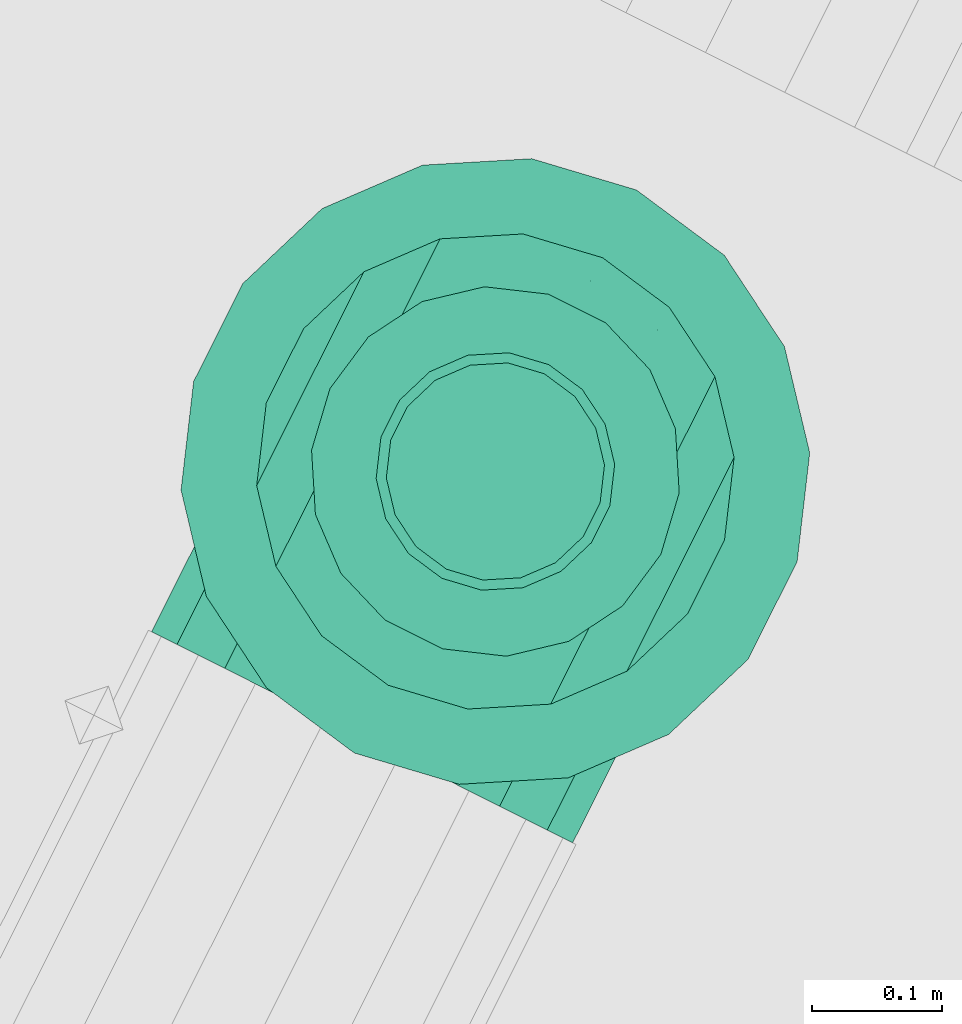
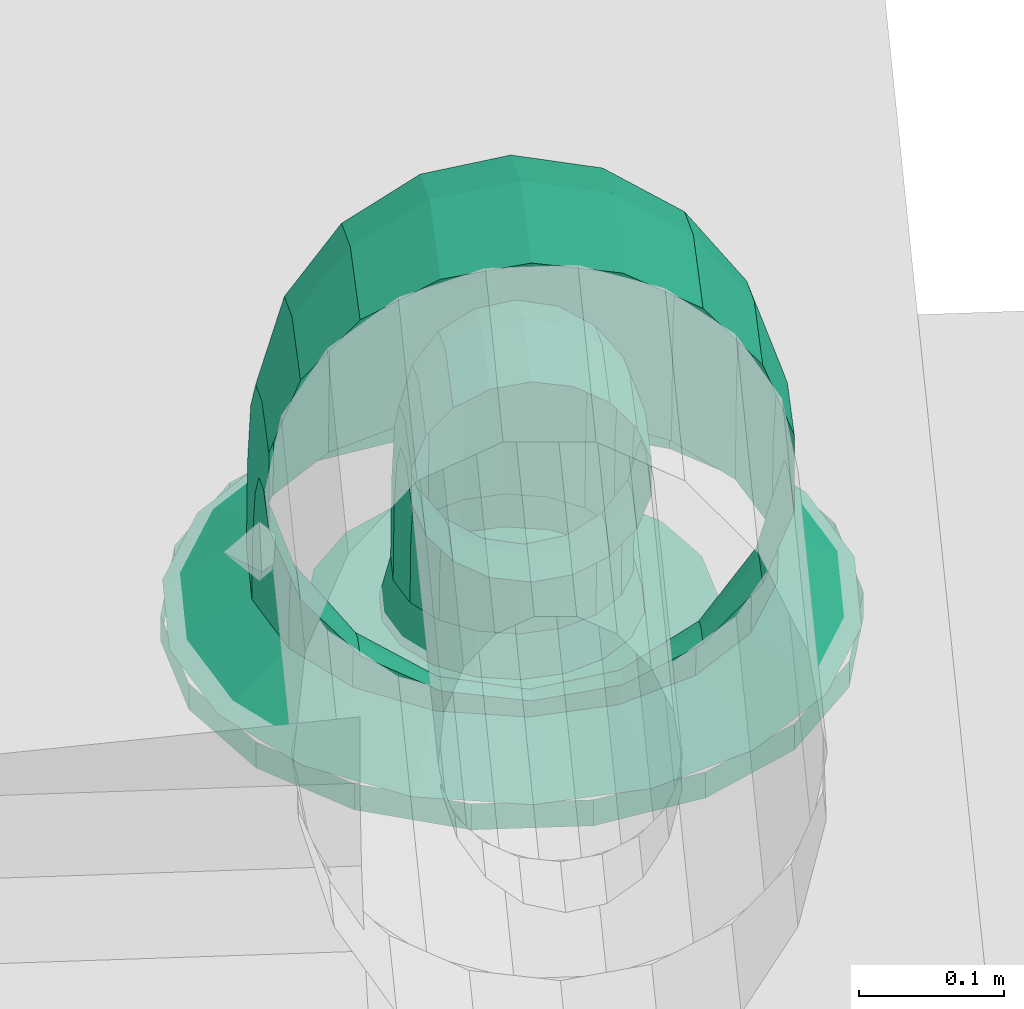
# One storey, part 128 of 206: 1 flow fitting, 1 flow segment.
"""IFC2X3 building model written with IfcOpenShell, lengths in metres."""

from ifc_helpers import new_model, si_unit, derived_unit, direction, frame, origin, place, context, subcontext, project, spatial, face_set, surface_model, source, transform, mapped, material, type_object, type_shapes, element, save


model = new_model("IFC2X3")

# Units and contexts
model_context = context("Model", 3, precision=5.2338327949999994e-05, world=origin(), true_north=direction((0.0, 1.0)))
body_context = subcontext(model_context, "Body", "Model", "MODEL_VIEW")
ifc_project = project(units=[si_unit("LENGTHUNIT", "METRE"), si_unit("AREAUNIT", "SQUARE_METRE"), si_unit("VOLUMEUNIT", "CUBIC_METRE"), si_unit("MASSUNIT", "GRAM", prefix="KILO"), si_unit("PLANEANGLEUNIT", "RADIAN"), derived_unit("THERMALTRANSMITTANCEUNIT", [(si_unit("MASSUNIT", "GRAM", prefix="KILO"), 1), (si_unit("THERMODYNAMICTEMPERATUREUNIT", "KELVIN"), -1), (si_unit("TIMEUNIT", "SECOND"), -3)])], contexts=[model_context])

# Site, building, storey
site_placement = place(None, frame((0.0, 0.0, 0.0), z_axis=(0.0, 0.0, 1.0), x_axis=(0.8939966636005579, -0.4480736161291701, 0.0)))
site = spatial("IfcSite", under=ifc_project, at=site_placement, Name="Default", CompositionType="ELEMENT")
building_placement = place(site_placement, origin())
building = spatial("IfcBuilding", under=site, at=building_placement, CompositionType="ELEMENT")
storey_placement = place(building_placement, origin())
storey = spatial("IfcBuildingStorey", under=building, at=storey_placement, Name="Erdgeschoss", CompositionType="ELEMENT", Elevation=0.0)

# Flow fitting
ifc_material = material(Name="IfcSurfaceStyle #9317")
distribution_element_type_1 = type_object("IfcDistributionElementType", material=ifc_material)
shared_shape_1 = source(origin(), body_context, "Body", "SurfaceModel", [
    surface_model("IfcFaceBasedSurfaceModel", [(24.032321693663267, 7.367307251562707, 2.07), (24.040915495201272, 7.3185693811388, 2.07), (24.040915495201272, 7.3185693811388, 2.0919999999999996), (24.032321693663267, 7.367307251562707, 2.0919999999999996), (24.065660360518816, 7.275710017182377, 2.07), (24.065660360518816, 7.275710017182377, 2.0919999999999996), (24.103571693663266, 7.243898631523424, 2.07), (24.103571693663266, 7.243898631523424, 2.0919999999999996), (24.15007682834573, 7.226972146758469, 2.07), (24.15007682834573, 7.226972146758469, 2.0919999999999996), (24.199566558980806, 7.226972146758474, 2.07), (24.199566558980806, 7.226972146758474, 2.0919999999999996), (24.246071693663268, 7.243898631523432, 2.07), (24.246071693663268, 7.243898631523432, 2.0919999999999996), (24.283983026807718, 7.275710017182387, 2.07), (24.283983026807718, 7.275710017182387, 2.0919999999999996), (24.30872789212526, 7.3185693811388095, 2.07), (24.30872789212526, 7.3185693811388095, 2.0919999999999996), (24.317321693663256, 7.36730725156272, 2.07), (24.317321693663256, 7.36730725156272, 2.0919999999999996), (24.30872789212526, 7.4160451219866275, 2.07), (24.30872789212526, 7.4160451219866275, 2.0919999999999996), (24.283983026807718, 7.458904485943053, 2.07), (24.283983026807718, 7.458904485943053, 2.0919999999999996), (24.246071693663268, 7.490715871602, 2.07), (24.246071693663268, 7.490715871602, 2.0919999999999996), (24.199566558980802, 7.507642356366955, 2.07), (24.199566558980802, 7.507642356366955, 2.0919999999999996), (24.15007682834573, 7.507642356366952, 2.07), (24.15007682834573, 7.507642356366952, 2.0919999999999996), (24.103571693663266, 7.490715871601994, 2.07), (24.103571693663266, 7.490715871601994, 2.0919999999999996), (24.065660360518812, 7.458904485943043, 2.07), (24.065660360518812, 7.458904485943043, 2.0919999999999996), (24.04091549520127, 7.416045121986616, 2.07), (24.04091549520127, 7.416045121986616, 2.0919999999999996), (24.17482169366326, 7.367307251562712, 2.091999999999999), (24.17482169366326, 7.275307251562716, 2.0919999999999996), (24.206287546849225, 7.280855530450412, 2.0919999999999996), (24.20360268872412, 7.28823211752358, 2.125), (24.17482169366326, 7.283157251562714, 2.1249999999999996), (24.23395815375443, 7.29683116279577, 2.0919999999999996), (24.228912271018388, 7.302844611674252, 2.125), (24.25449603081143, 7.321307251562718, 2.091999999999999), (24.247697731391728, 7.325232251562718, 2.1249999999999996), (24.265424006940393, 7.351331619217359, 2.0920000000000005), (24.257693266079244, 7.352694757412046, 2.125000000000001), (24.265424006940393, 7.383282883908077, 2.091999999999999), (24.257693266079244, 7.381919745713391, 2.1249999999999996), (24.25449603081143, 7.41330725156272, 2.0919999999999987), (24.247697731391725, 7.409382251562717, 2.124999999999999), (24.23395815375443, 7.437783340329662, 2.0920000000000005), (24.228912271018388, 7.431769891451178, 2.125000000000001), (24.206287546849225, 7.453758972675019, 2.0919999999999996), (24.20360268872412, 7.446382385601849, 2.125), (24.17482169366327, 7.459307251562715, 2.0919999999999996), (24.17482169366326, 7.451457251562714, 2.125), (24.143355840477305, 7.453758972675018, 2.0919999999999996), (24.14604069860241, 7.446382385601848, 2.125), (24.1156852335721, 7.437783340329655, 2.0919999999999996), (24.120731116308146, 7.4317698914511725, 2.125), (24.095147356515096, 7.41330725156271, 2.0919999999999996), (24.101945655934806, 7.409382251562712, 2.125), (24.084219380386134, 7.383282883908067, 2.091999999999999), (24.091950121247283, 7.3819197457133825, 2.1249999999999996), (24.084219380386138, 7.351331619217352, 2.091999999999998), (24.091950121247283, 7.3526947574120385, 2.1249999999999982), (24.095147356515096, 7.3213072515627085, 2.0919999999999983), (24.101945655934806, 7.325232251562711, 2.1249999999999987), (24.1156852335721, 7.2968311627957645, 2.0919999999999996), (24.120731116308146, 7.302844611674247, 2.125), (24.143355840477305, 7.280855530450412, 2.091999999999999), (24.146040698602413, 7.288232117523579, 2.1249999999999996), (23.932321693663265, 7.3673072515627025, 2.07), (23.94694623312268, 7.284367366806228, 2.07), (23.94694623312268, 7.284367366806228, 2.0919999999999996), (23.932321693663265, 7.367307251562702, 2.0919999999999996), (23.989055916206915, 7.211431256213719, 2.07), (23.989055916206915, 7.211431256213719, 2.0919999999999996), (24.05357169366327, 7.157296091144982, 2.07), (24.05357169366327, 7.157296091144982, 2.0919999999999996), (24.132712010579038, 7.128491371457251, 2.07), (24.132712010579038, 7.128491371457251, 2.0919999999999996), (24.216931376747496, 7.128491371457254, 2.07), (24.216931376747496, 7.128491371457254, 2.0919999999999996), (24.29607169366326, 7.157296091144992, 2.07), (24.29607169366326, 7.157296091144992, 2.0919999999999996), (24.36058747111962, 7.211431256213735, 2.07), (24.36058747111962, 7.211431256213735, 2.0919999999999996), (24.40269715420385, 7.284367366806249, 2.07), (24.40269715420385, 7.284367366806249, 2.0919999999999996), (24.417321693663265, 7.3673072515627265, 2.07), (24.417321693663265, 7.3673072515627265, 2.0919999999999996), (24.40269715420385, 7.4502471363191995, 2.07), (24.40269715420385, 7.4502471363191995, 2.0919999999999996), (24.36058747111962, 7.523183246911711, 2.07), (24.36058747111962, 7.523183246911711, 2.0919999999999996), (24.29607169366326, 7.577318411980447, 2.07), (24.29607169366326, 7.577318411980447, 2.0919999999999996), (24.216931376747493, 7.606123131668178, 2.07), (24.216931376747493, 7.606123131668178, 2.0919999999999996), (24.132712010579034, 7.606123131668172, 2.07), (24.132712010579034, 7.606123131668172, 2.0919999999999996), (24.053571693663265, 7.577318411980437, 2.07), (24.053571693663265, 7.577318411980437, 2.0919999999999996), (23.98905591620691, 7.523183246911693, 2.07), (23.98905591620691, 7.523183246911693, 2.0919999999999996), (23.94694623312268, 7.450247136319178, 2.07), (23.94694623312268, 7.450247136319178, 2.0919999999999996), (24.17482169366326, 7.124807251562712, 2.0919999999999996), (24.257761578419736, 7.139431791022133, 2.0919999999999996), (24.23780470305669, 7.1942628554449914, 2.125), (24.17482169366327, 7.1831572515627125, 2.1249999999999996), (24.33069768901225, 7.181541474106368, 2.0919999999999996), (24.29319103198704, 7.226240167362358, 2.125), (24.38483285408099, 7.246057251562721, 2.0920000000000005), (24.334300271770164, 7.275232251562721, 2.125000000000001), (24.413637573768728, 7.325197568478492, 2.092), (24.356174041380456, 7.335329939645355, 2.1250000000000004), (24.41363757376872, 7.409416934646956, 2.0919999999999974), (24.356174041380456, 7.399284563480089, 2.124999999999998), (24.38483285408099, 7.488557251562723, 2.092), (24.334300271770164, 7.459382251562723, 2.1250000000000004), (24.33069768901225, 7.5530730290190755, 2.092), (24.29319103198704, 7.508374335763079, 2.1250000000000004), (24.257761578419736, 7.5951827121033, 2.091999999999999), (24.237804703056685, 7.540351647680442, 2.1249999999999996), (24.17482169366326, 7.609807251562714, 2.0919999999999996), (24.17482169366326, 7.551457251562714, 2.125), (24.091881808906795, 7.595182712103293, 2.092), (24.111838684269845, 7.540351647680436, 2.1250000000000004), (24.01894569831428, 7.55307302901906, 2.0919999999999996), (24.056452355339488, 7.508374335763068, 2.125), (23.96481053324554, 7.488557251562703, 2.091999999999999), (24.015343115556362, 7.459382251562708, 2.1249999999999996), (23.936005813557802, 7.4094169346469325, 2.0919999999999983), (23.993469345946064, 7.39928456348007, 2.1249999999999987), (23.936005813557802, 7.325197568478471, 2.0919999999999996), (23.993469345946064, 7.335329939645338, 2.125), (23.96481053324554, 7.246057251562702, 2.091999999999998), (24.015343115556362, 7.275232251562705, 2.1249999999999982), (24.018945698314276, 7.181541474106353, 2.0919999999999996), (24.05645235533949, 7.226240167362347, 2.125), (24.091881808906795, 7.1394317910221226, 2.0919999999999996), (24.111838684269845, 7.194262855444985, 2.125)], [face_set([[[0, 1, 2, 3]], [[1, 4, 5, 2]], [[4, 6, 7, 5]], [[6, 8, 9, 7]], [[8, 10, 11, 9]], [[10, 12, 13, 11]], [[12, 14, 15, 13]], [[14, 16, 17, 15]], [[16, 18, 19, 17]], [[18, 20, 21, 19]], [[20, 22, 23, 21]], [[22, 24, 25, 23]], [[24, 26, 27, 25]], [[26, 28, 29, 27]], [[28, 30, 31, 29]], [[30, 32, 33, 31]], [[32, 34, 35, 33]], [[34, 0, 3, 35]], [[36, 35, 3]], [[36, 33, 35]], [[36, 31, 33]], [[36, 29, 31]], [[36, 27, 29]], [[36, 25, 27]], [[36, 23, 25]], [[36, 21, 23]], [[36, 19, 21]], [[36, 17, 19]], [[36, 15, 17]], [[36, 13, 15]], [[36, 11, 13]], [[36, 9, 11]], [[36, 7, 9]], [[36, 5, 7]], [[36, 2, 5]], [[36, 3, 2]], [[37, 38, 39, 40]], [[38, 41, 42, 39]], [[41, 43, 44, 42]], [[43, 45, 46, 44]], [[45, 47, 48, 46]], [[47, 49, 50, 48]], [[49, 51, 52, 50]], [[51, 53, 54, 52]], [[53, 55, 56, 54]], [[55, 57, 58, 56]], [[57, 59, 60, 58]], [[59, 61, 62, 60]], [[61, 63, 64, 62]], [[63, 65, 66, 64]], [[65, 67, 68, 66]], [[67, 69, 70, 68]], [[69, 71, 72, 70]], [[71, 37, 40, 72]], [[73, 74, 75, 76]], [[74, 77, 78, 75]], [[77, 79, 80, 78]], [[79, 81, 82, 80]], [[81, 83, 84, 82]], [[83, 85, 86, 84]], [[85, 87, 88, 86]], [[87, 89, 90, 88]], [[89, 91, 92, 90]], [[91, 93, 94, 92]], [[93, 95, 96, 94]], [[95, 97, 98, 96]], [[97, 99, 100, 98]], [[99, 101, 102, 100]], [[101, 103, 104, 102]], [[103, 105, 106, 104]], [[105, 107, 108, 106]], [[107, 73, 76, 108]], [[109, 110, 111, 112]], [[110, 113, 114, 111]], [[113, 115, 116, 114]], [[115, 117, 118, 116]], [[117, 119, 120, 118]], [[119, 121, 122, 120]], [[121, 123, 124, 122]], [[123, 125, 126, 124]], [[125, 127, 128, 126]], [[127, 129, 130, 128]], [[129, 131, 132, 130]], [[131, 133, 134, 132]], [[133, 135, 136, 134]], [[135, 137, 138, 136]], [[137, 139, 140, 138]], [[139, 141, 142, 140]], [[141, 143, 144, 142]], [[143, 109, 112, 144]]])]),
])
type_shapes(distribution_element_type_1, [shared_shape_1])
flow_fitting_placement = place(storey_placement, origin())
element("IfcFlowFitting", 1, at=flow_fitting_placement, inside=storey, type_object=distribution_element_type_1, material=ifc_material, Name="Flansch", ObjectType="Flansch", context=body_context, shape_type="MappedRepresentation", body=[
    mapped(shared_shape_1, transform((0.0, 0.0, 0.0), scale=1.0)),
])

# Flow segment
distribution_element_type_2 = type_object("IfcDistributionElementType", Name="Rohrbogen 317460:Rohrbogen 317460", material=ifc_material)
shared_shape_2 = source(origin(), body_context, "Body", "SurfaceModel", [
    surface_model("IfcFaceBasedSurfaceModel", [(24.17482169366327, 7.451457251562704, 2.125000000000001), (24.146040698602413, 7.446382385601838, 2.1250000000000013), (24.146040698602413, 7.431304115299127, 2.2202004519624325), (24.17482169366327, 7.436130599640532, 2.2217686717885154), (24.146040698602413, 7.387545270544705, 2.306082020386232), (24.17482169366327, 7.391650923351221, 2.309064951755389), (24.146040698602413, 7.3193892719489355, 2.374238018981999), (24.17482169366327, 7.322372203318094, 2.378343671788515), (24.146040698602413, 7.23350770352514, 2.4179968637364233), (24.17482169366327, 7.235075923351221, 2.422823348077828), (24.146040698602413, 7.138307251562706, 2.4330751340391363), (24.17482169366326, 7.138307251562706, 2.4381500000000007), (24.120731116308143, 7.431769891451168, 2.1250000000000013), (24.120731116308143, 7.417406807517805, 2.2156849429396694), (24.120731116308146, 7.375723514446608, 2.2974930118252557), (24.120731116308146, 7.310800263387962, 2.3624162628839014), (24.120731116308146, 7.228992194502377, 2.4040995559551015), (24.120731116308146, 7.138307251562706, 2.4184626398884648), (24.101945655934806, 7.409382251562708, 2.125000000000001), (24.101945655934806, 7.396114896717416, 2.2087667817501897), (24.101945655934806, 7.357611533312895, 2.2843338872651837), (24.101945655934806, 7.297641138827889, 2.3443042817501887), (24.101945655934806, 7.2220740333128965, 2.3828076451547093), (24.101945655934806, 7.138307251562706, 2.3960750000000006), (24.091950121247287, 7.381919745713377, 2.125000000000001), (24.091950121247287, 7.369996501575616, 2.2002804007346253), (24.091950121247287, 7.335393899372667, 2.268191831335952), (24.091950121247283, 7.281499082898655, 2.322086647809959), (24.091950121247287, 7.21358765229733, 2.35668925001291), (24.091950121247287, 7.138307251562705, 2.3686124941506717), (24.091950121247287, 7.352694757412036, 2.125000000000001), (24.091950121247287, 7.342201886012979, 2.1912493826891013), (24.091950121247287, 7.3117503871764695, 2.251013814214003), (24.091950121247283, 7.26432106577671, 2.298443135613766), (24.091950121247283, 7.204556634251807, 2.3288946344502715), (24.091950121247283, 7.138307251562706, 2.3393875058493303), (24.10194565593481, 7.325232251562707, 2.125000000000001), (24.101945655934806, 7.316083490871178, 2.1827630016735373), (24.101945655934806, 7.289532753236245, 2.2348717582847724), (24.101945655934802, 7.248179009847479, 2.2762255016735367), (24.101945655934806, 7.196070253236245, 2.3027762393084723), (24.101945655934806, 7.13830725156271, 2.311925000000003), (24.120731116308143, 7.302844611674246, 2.125000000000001), (24.120731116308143, 7.294791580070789, 2.175844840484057), (24.120731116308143, 7.271420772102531, 2.221712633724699), (24.120731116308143, 7.235019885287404, 2.258113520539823), (24.120731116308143, 7.18915209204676, 2.28148432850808), (24.120731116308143, 7.138307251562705, 2.2895373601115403), (24.146040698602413, 7.288232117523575, 2.1250000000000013), (24.14604069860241, 7.280894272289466, 2.171329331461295), (24.14604069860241, 7.259599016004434, 2.2131236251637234), (24.14604069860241, 7.226430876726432, 2.2462917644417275), (24.14604069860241, 7.184636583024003, 2.2675870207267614), (24.14604069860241, 7.138307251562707, 2.2749248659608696), (24.17482169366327, 7.283157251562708, 2.125000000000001), (24.17482169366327, 7.276067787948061, 2.169761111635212), (24.17482169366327, 7.255493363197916, 2.2101406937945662), (24.17482169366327, 7.223447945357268, 2.242186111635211), (24.17482169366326, 7.1830683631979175, 2.2627605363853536), (24.17482169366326, 7.138307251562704, 2.2698500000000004), (24.20360268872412, 7.288232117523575, 2.1250000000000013), (24.20360268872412, 7.280894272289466, 2.171329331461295), (24.20360268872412, 7.259599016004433, 2.213123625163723), (24.20360268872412, 7.226430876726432, 2.2462917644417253), (24.20360268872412, 7.184636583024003, 2.2675870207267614), (24.20360268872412, 7.138307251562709, 2.2749248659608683), (24.228912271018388, 7.302844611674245, 2.125000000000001), (24.228912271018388, 7.294791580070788, 2.1758448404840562), (24.228912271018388, 7.2714207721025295, 2.2217126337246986), (24.228912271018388, 7.235019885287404, 2.2581135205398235), (24.228912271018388, 7.189152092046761, 2.2814843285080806), (24.228912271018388, 7.138307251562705, 2.289537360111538), (24.247697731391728, 7.3252322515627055, 2.125000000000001), (24.247697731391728, 7.316083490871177, 2.1827630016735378), (24.247697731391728, 7.2895327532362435, 2.2348717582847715), (24.247697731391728, 7.248179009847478, 2.276225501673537), (24.247697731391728, 7.196070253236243, 2.3027762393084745), (24.247697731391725, 7.138307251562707, 2.3119250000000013), (24.257693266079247, 7.3526947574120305, 2.125000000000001), (24.257693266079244, 7.342201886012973, 2.1912493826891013), (24.257693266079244, 7.311750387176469, 2.251013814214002), (24.257693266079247, 7.264321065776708, 2.298443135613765), (24.257693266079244, 7.204556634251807, 2.32889463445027), (24.257693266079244, 7.138307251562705, 2.339387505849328), (24.257693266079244, 7.381919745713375, 2.125000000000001), (24.257693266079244, 7.369996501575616, 2.2002804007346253), (24.257693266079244, 7.335393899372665, 2.2681918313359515), (24.257693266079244, 7.281499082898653, 2.3220866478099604), (24.257693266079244, 7.2135876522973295, 2.356689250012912), (24.257693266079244, 7.138307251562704, 2.3686124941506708), (24.247697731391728, 7.409382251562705, 2.125000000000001), (24.247697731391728, 7.396114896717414, 2.2087667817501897), (24.247697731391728, 7.357611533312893, 2.2843338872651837), (24.247697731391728, 7.297641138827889, 2.344304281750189), (24.24769773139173, 7.222074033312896, 2.382807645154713), (24.247697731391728, 7.138307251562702, 2.396075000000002), (24.228912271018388, 7.431769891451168, 2.125000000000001), (24.228912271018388, 7.417406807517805, 2.2156849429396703), (24.228912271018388, 7.375723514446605, 2.297493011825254), (24.228912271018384, 7.310800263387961, 2.3624162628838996), (24.228912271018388, 7.228992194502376, 2.4040995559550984), (24.228912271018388, 7.138307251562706, 2.4184626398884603), (24.20360268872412, 7.446382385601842, 2.1250000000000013), (24.20360268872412, 7.431304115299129, 2.220200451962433), (24.20360268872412, 7.387545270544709, 2.3060820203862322), (24.20360268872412, 7.319389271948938, 2.3742380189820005), (24.20360268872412, 7.233507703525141, 2.417996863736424), (24.20360268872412, 7.138307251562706, 2.433075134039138), (24.17482169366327, 7.551457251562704, 2.1250000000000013), (24.111838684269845, 7.540351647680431, 2.1250000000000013), (24.111838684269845, 7.520674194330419, 2.249238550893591), (24.17482169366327, 7.531236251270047, 2.2526703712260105), (24.111838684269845, 7.463568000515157, 2.3613157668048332), (24.17482169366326, 7.472552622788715, 2.367843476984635), (24.111838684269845, 7.374623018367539, 2.450260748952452), (24.17482169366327, 7.381150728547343, 2.459245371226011), (24.111838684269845, 7.262545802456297, 2.5073669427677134), (24.17482169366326, 7.265977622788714, 2.5179289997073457), (24.111838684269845, 7.138307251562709, 2.527044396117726), (24.17482169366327, 7.138307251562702, 2.538150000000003), (24.05645235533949, 7.508374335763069, 2.125000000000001), (24.05645235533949, 7.490261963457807, 2.2393570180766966), (24.05645235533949, 7.437697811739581, 2.34251997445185), (24.05645235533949, 7.355827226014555, 2.424390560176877), (24.05645235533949, 7.252664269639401, 2.4769547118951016), (24.05645235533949, 7.138307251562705, 2.49506708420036), (24.015343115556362, 7.459382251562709, 2.125000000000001), (24.015343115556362, 7.443667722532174, 2.224217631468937), (24.015343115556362, 7.398062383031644, 2.313723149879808), (24.015343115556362, 7.3270304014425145, 2.38475513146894), (24.015343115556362, 7.237524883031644, 2.430360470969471), (24.015343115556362, 7.138307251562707, 2.446075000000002), (23.993469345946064, 7.399284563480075, 2.125000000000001), (23.993469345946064, 7.386511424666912, 2.205646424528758), (23.993469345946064, 7.349442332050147, 2.278398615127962), (23.993469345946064, 7.291705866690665, 2.3361350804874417), (23.993469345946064, 7.218953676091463, 2.373204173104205), (23.993469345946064, 7.138307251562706, 2.3859773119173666), (23.993469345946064, 7.33532993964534, 2.1250000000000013), (23.993469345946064, 7.325686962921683, 2.1858833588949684), (23.993469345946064, 7.29770195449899, 2.2408070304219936), (23.993469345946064, 7.254114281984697, 2.284394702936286), (23.993469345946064, 7.1991906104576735, 2.312379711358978), (23.993469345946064, 7.138307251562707, 2.322022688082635), (24.01534311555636, 7.275232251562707, 2.125000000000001), (24.015343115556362, 7.2685306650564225, 2.16731215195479), (24.015343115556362, 7.249081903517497, 2.2054824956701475), (24.015343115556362, 7.2187897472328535, 2.23577465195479), (24.015343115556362, 7.180619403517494, 2.2552234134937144), (24.015343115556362, 7.138307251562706, 2.2619249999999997), (24.056452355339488, 7.226240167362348, 2.1250000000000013), (24.056452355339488, 7.221936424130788, 2.152172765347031), (24.056452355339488, 7.209446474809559, 2.1766856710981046), (24.05645235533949, 7.18999292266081, 2.196139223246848), (24.056452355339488, 7.165480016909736, 2.208629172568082), (24.056452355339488, 7.138307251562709, 2.2129329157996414), (24.111838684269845, 7.194262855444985, 2.125000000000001), (24.111838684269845, 7.191524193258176, 2.1422912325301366), (24.11183868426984, 7.1835762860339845, 2.1578898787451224), (24.111838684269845, 7.171197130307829, 2.1702690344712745), (24.111838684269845, 7.155598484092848, 2.1782169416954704), (24.111838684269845, 7.138307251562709, 2.1809556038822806), (24.17482169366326, 7.183157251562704, 2.125000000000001), (24.17482169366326, 7.1809621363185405, 2.1388594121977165), (24.17482169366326, 7.174591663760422, 2.1513621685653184), (24.17482169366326, 7.164669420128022, 2.161284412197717), (24.17482169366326, 7.152166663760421, 2.1676548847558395), (24.17482169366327, 7.138307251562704, 2.1698500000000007), (24.23780470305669, 7.1942628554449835, 2.125000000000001), (24.23780470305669, 7.191524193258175, 2.142291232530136), (24.237804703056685, 7.183576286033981, 2.1578898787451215), (24.237804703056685, 7.171197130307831, 2.170269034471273), (24.237804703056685, 7.155598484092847, 2.1782169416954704), (24.23780470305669, 7.138307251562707, 2.1809556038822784), (24.29319103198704, 7.226240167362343, 2.1250000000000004), (24.29319103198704, 7.221936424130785, 2.15217276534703), (24.29319103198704, 7.209446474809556, 2.176685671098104), (24.29319103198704, 7.18999292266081, 2.1961392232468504), (24.29319103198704, 7.165480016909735, 2.2086291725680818), (24.29319103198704, 7.138307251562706, 2.212932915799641), (24.334300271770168, 7.2752322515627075, 2.125000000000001), (24.334300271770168, 7.2685306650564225, 2.167312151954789), (24.334300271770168, 7.249081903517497, 2.205482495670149), (24.334300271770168, 7.218789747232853, 2.235774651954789), (24.334300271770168, 7.180619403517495, 2.2552234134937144), (24.334300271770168, 7.138307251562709, 2.261925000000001), (24.356174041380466, 7.335329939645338, 2.1250000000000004), (24.356174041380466, 7.325686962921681, 2.1858833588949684), (24.356174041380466, 7.297701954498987, 2.2408070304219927), (24.356174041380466, 7.254114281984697, 2.2843947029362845), (24.356174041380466, 7.199190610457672, 2.312379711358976), (24.356174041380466, 7.138307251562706, 2.3220226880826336), (24.356174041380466, 7.399284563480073, 2.125000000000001), (24.356174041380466, 7.386511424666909, 2.2056464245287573), (24.356174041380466, 7.349442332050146, 2.2783986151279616), (24.356174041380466, 7.291705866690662, 2.3361350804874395), (24.356174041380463, 7.218953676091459, 2.3732041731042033), (24.356174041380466, 7.138307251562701, 2.3859773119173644), (24.334300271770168, 7.4593822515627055, 2.125000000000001), (24.334300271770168, 7.443667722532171, 2.224217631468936), (24.334300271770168, 7.398062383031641, 2.3137231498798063), (24.334300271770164, 7.327030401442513, 2.3847551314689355), (24.334300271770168, 7.237524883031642, 2.430360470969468), (24.334300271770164, 7.138307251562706, 2.4460750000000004), (24.29319103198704, 7.5083743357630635, 2.125), (24.29319103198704, 7.490261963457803, 2.2393570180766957), (24.29319103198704, 7.437697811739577, 2.342519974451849), (24.29319103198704, 7.35582722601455, 2.4243905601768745), (24.29319103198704, 7.252664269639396, 2.476954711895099), (24.29319103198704, 7.138307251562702, 2.4950670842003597), (24.23780470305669, 7.540351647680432, 2.1250000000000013), (24.237804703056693, 7.520674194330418, 2.2492385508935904), (24.237804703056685, 7.463568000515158, 2.361315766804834), (24.23780470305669, 7.3746230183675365, 2.450260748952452), (24.23780470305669, 7.262545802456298, 2.5073669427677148), (24.237804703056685, 7.138307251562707, 2.527044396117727)], [face_set([[[0, 1, 2, 3]], [[3, 2, 4, 5]], [[5, 4, 6, 7]], [[7, 6, 8, 9]], [[9, 8, 10, 11]], [[1, 12, 13, 2]], [[2, 13, 14, 4]], [[4, 14, 15, 6]], [[6, 15, 16, 8]], [[8, 16, 17, 10]], [[12, 18, 19, 13]], [[13, 19, 20, 14]], [[14, 20, 21, 15]], [[15, 21, 22, 16]], [[16, 22, 23, 17]], [[18, 24, 25, 19]], [[19, 25, 26, 20]], [[20, 26, 27, 21]], [[21, 27, 28, 22]], [[22, 28, 29, 23]], [[24, 30, 31, 25]], [[25, 31, 32, 26]], [[26, 32, 33, 27]], [[27, 33, 34, 28]], [[28, 34, 35, 29]], [[30, 36, 37, 31]], [[31, 37, 38, 32]], [[32, 38, 39, 33]], [[33, 39, 40, 34]], [[34, 40, 41, 35]], [[36, 42, 43, 37]], [[37, 43, 44, 38]], [[38, 44, 45, 39]], [[39, 45, 46, 40]], [[40, 46, 47, 41]], [[42, 48, 49, 43]], [[43, 49, 50, 44]], [[44, 50, 51, 45]], [[45, 51, 52, 46]], [[46, 52, 53, 47]], [[48, 54, 55, 49]], [[49, 55, 56, 50]], [[50, 56, 57, 51]], [[51, 57, 58, 52]], [[52, 58, 59, 53]], [[54, 60, 61, 55]], [[55, 61, 62, 56]], [[56, 62, 63, 57]], [[57, 63, 64, 58]], [[58, 64, 65, 59]], [[60, 66, 67, 61]], [[61, 67, 68, 62]], [[62, 68, 69, 63]], [[63, 69, 70, 64]], [[64, 70, 71, 65]], [[66, 72, 73, 67]], [[67, 73, 74, 68]], [[68, 74, 75, 69]], [[69, 75, 76, 70]], [[70, 76, 77, 71]], [[72, 78, 79, 73]], [[73, 79, 80, 74]], [[74, 80, 81, 75]], [[75, 81, 82, 76]], [[76, 82, 83, 77]], [[78, 84, 85, 79]], [[79, 85, 86, 80]], [[80, 86, 87, 81]], [[81, 87, 88, 82]], [[82, 88, 89, 83]], [[84, 90, 91, 85]], [[85, 91, 92, 86]], [[86, 92, 93, 87]], [[87, 93, 94, 88]], [[88, 94, 95, 89]], [[90, 96, 97, 91]], [[91, 97, 98, 92]], [[92, 98, 99, 93]], [[93, 99, 100, 94]], [[94, 100, 101, 95]], [[96, 102, 103, 97]], [[97, 103, 104, 98]], [[98, 104, 105, 99]], [[99, 105, 106, 100]], [[100, 106, 107, 101]], [[102, 0, 3, 103]], [[103, 3, 5, 104]], [[104, 5, 7, 105]], [[105, 7, 9, 106]], [[106, 9, 11, 107]], [[108, 109, 110, 111]], [[111, 110, 112, 113]], [[113, 112, 114, 115]], [[115, 114, 116, 117]], [[117, 116, 118, 119]], [[109, 120, 121, 110]], [[110, 121, 122, 112]], [[112, 122, 123, 114]], [[114, 123, 124, 116]], [[116, 124, 125, 118]], [[120, 126, 127, 121]], [[121, 127, 128, 122]], [[122, 128, 129, 123]], [[123, 129, 130, 124]], [[124, 130, 131, 125]], [[126, 132, 133, 127]], [[127, 133, 134, 128]], [[128, 134, 135, 129]], [[129, 135, 136, 130]], [[130, 136, 137, 131]], [[132, 138, 139, 133]], [[133, 139, 140, 134]], [[134, 140, 141, 135]], [[135, 141, 142, 136]], [[136, 142, 143, 137]], [[138, 144, 145, 139]], [[139, 145, 146, 140]], [[140, 146, 147, 141]], [[141, 147, 148, 142]], [[142, 148, 149, 143]], [[144, 150, 151, 145]], [[145, 151, 152, 146]], [[146, 152, 153, 147]], [[147, 153, 154, 148]], [[148, 154, 155, 149]], [[150, 156, 157, 151]], [[151, 157, 158, 152]], [[152, 158, 159, 153]], [[153, 159, 160, 154]], [[154, 160, 161, 155]], [[156, 162, 163, 157]], [[157, 163, 164, 158]], [[158, 164, 165, 159]], [[159, 165, 166, 160]], [[160, 166, 167, 161]], [[162, 168, 169, 163]], [[163, 169, 170, 164]], [[164, 170, 171, 165]], [[165, 171, 172, 166]], [[166, 172, 173, 167]], [[168, 174, 175, 169]], [[169, 175, 176, 170]], [[170, 176, 177, 171]], [[171, 177, 178, 172]], [[172, 178, 179, 173]], [[174, 180, 181, 175]], [[175, 181, 182, 176]], [[176, 182, 183, 177]], [[177, 183, 184, 178]], [[178, 184, 185, 179]], [[180, 186, 187, 181]], [[181, 187, 188, 182]], [[182, 188, 189, 183]], [[183, 189, 190, 184]], [[184, 190, 191, 185]], [[186, 192, 193, 187]], [[187, 193, 194, 188]], [[188, 194, 195, 189]], [[189, 195, 196, 190]], [[190, 196, 197, 191]], [[192, 198, 199, 193]], [[193, 199, 200, 194]], [[194, 200, 201, 195]], [[195, 201, 202, 196]], [[196, 202, 203, 197]], [[198, 204, 205, 199]], [[199, 205, 206, 200]], [[200, 206, 207, 201]], [[201, 207, 208, 202]], [[202, 208, 209, 203]], [[204, 210, 211, 205]], [[205, 211, 212, 206]], [[206, 212, 213, 207]], [[207, 213, 214, 208]], [[208, 214, 215, 209]], [[210, 108, 111, 211]], [[211, 111, 113, 212]], [[212, 113, 115, 213]], [[213, 115, 117, 214]], [[214, 117, 119, 215]]])]),
])
type_shapes(distribution_element_type_2, [shared_shape_2])
flow_segment_placement = place(storey_placement, origin())
element("IfcFlowSegment", 2, at=flow_segment_placement, inside=storey, type_object=distribution_element_type_2, material=ifc_material, Name="Rohrbogen", ObjectType="Rohrbogen", context=body_context, shape_type="MappedRepresentation", body=[
    mapped(shared_shape_2, transform((0.0, 0.0, 0.0), scale=1.0)),
])

save(model, "model.ifc")
